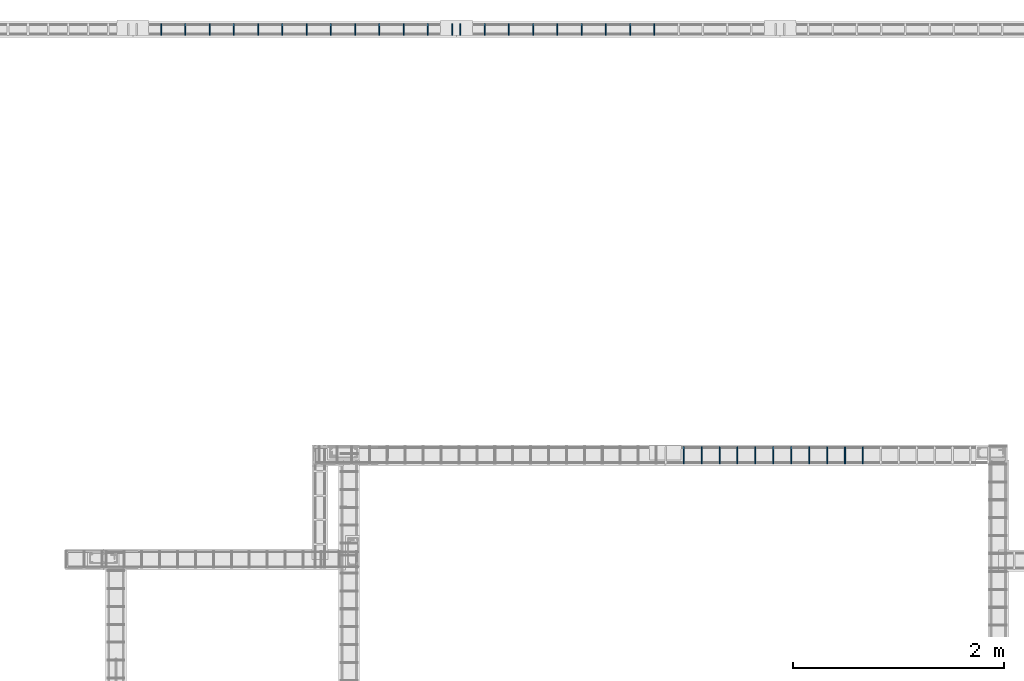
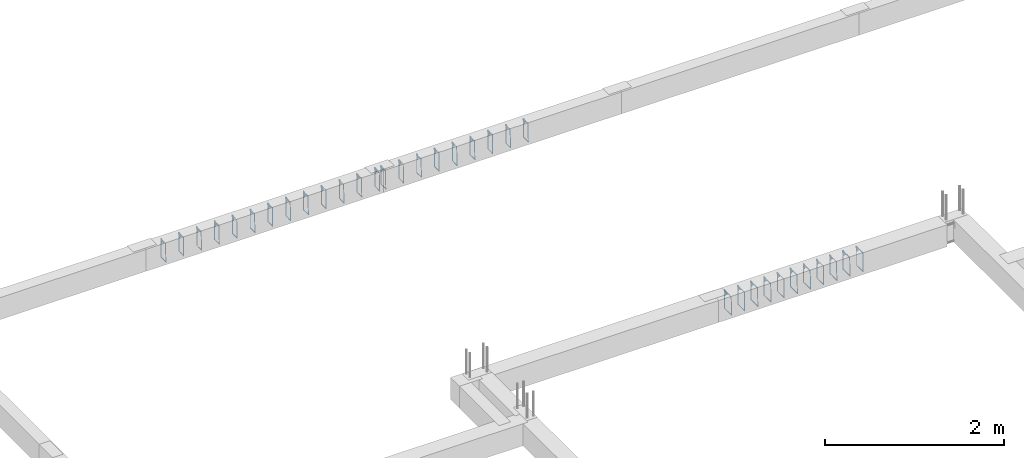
# One storey, part 125 of 150: 33 reinforcing bars.
"""IFC4 building model written with IfcOpenShell, lengths in centimetres."""

import ifcopenshell
import ifcopenshell.guid

model = None  # the IFC model being written
_history = None  # IfcOwnerHistory: only IFC2X3 demands one
_inside = {}  # id of a spatial element -> (the spatial element, [elements in it])
_under = {}  # id of a project, library or spatial element -> (it, [spatial elements below it])
_declared = {}  # id of a project -> (the project, [libraries it declares])
_typed = {}  # id of a type object -> (the type object, [elements of that type])
_made_of = {}  # id of a material, layer set ... -> (it, [elements and type objects made of it])


def new_model(schema):
    """Start an empty IFC model of exactly this schema.

    Asked for "IFC4X3", IfcOpenShell would pick the latest addendum, in which some entities
    have other attributes; the version numbers below select the first issue.
    IFC2X3 requires an IfcOwnerHistory on every rooted entity: one is made here for all.
    """
    global model, _history
    if schema == "IFC4X3":
        model = ifcopenshell.file(schema_version=(4, 3, 0, 0))
    else:
        model = ifcopenshell.file(schema=schema)
    _inside.clear()
    _under.clear()
    _declared.clear()
    _typed.clear()
    _made_of.clear()
    _history = None
    if model.schema == "IFC2X3":
        org = make("IfcOrganization", Name="unknown")
        user = make(
            "IfcPersonAndOrganization",
            ThePerson=make("IfcPerson", FamilyName="unknown"),
            TheOrganization=org,
        )
        app = make(
            "IfcApplication",
            ApplicationDeveloper=org,
            Version="unknown",
            ApplicationFullName="unknown",
            ApplicationIdentifier="unknown",
        )
        _history = make(
            "IfcOwnerHistory",
            OwningUser=user,
            OwningApplication=app,
            ChangeAction="ADDED",
            CreationDate=0,
        )
    return model


def make(cls, **values):
    """One entity of the class cls with the attributes given. An attribute that is None is left unset."""
    return model.create_entity(
        cls, **{name: value for name, value in values.items() if value is not None}
    )


def entity(cls, *values):
    """Any entity or typed value of the class cls, its attributes in the order of the schema. None: left unset."""
    e = model.create_entity(cls)
    for i, value in enumerate(values):
        if value is not None:
            e[i] = value
    return e


def rooted(cls, **values):
    """An entity with a GlobalId (a new one), such as an element, a storey or a relation."""
    return make(cls, GlobalId=ifcopenshell.guid.new(), OwnerHistory=_history, **values)


def si_unit(unit_type, name, prefix=None):
    """IfcSIUnit, for example si_unit("LENGTHUNIT", "METRE", prefix="MILLI")."""
    return make("IfcSIUnit", UnitType=unit_type, Prefix=prefix, Name=name)


def derived_unit(unit_type, elements):
    """IfcDerivedUnit: a product of units, each with its exponent."""
    return make(
        "IfcDerivedUnit",
        Elements=[
            make("IfcDerivedUnitElement", Unit=unit, Exponent=power)
            for unit, power in elements
        ],
        UnitType=unit_type,
    )


def assignment(units):
    """IfcUnitAssignment: the units of a project."""
    return None if units is None else make("IfcUnitAssignment", Units=units)


def point(xyz):
    """IfcCartesianPoint."""
    return None if xyz is None else make("IfcCartesianPoint", Coordinates=xyz)


def direction(xyz):
    """IfcDirection."""
    return None if xyz is None else make("IfcDirection", DirectionRatios=xyz)


def frame(location, z_axis=None, x_axis=None):
    """IfcAxis2Placement3D, a coordinate frame: its origin and axes. An axis left out is left unset."""
    return make(
        "IfcAxis2Placement3D",
        Location=point(location),
        Axis=direction(z_axis),
        RefDirection=direction(x_axis),
    )


def origin_with_axes():
    """The frame at (0, 0, 0) with the z axis (0, 0, 1) and the x axis (1, 0, 0) written out."""
    return frame((0.0, 0.0, 0.0), z_axis=(0.0, 0.0, 1.0), x_axis=(1.0, 0.0, 0.0))


def place(relative_to, where):
    """IfcLocalPlacement: puts the frame where relative to a parent placement (None: the world)."""
    return make(
        "IfcLocalPlacement", PlacementRelTo=relative_to, RelativePlacement=where
    )


def context(
    kind, dimensions, precision=None, world=None, true_north=None, identifier=None
):
    """IfcGeometricRepresentationContext, for example the 3D "Model" context."""
    return make(
        "IfcGeometricRepresentationContext",
        ContextIdentifier=identifier,
        ContextType=kind,
        CoordinateSpaceDimension=dimensions,
        Precision=precision,
        WorldCoordinateSystem=world,
        TrueNorth=true_north,
    )


def project(units=None, contexts=None):
    """IfcProject with its units and contexts."""
    return rooted(
        "IfcProject",
        Name="project",
        RepresentationContexts=contexts,
        UnitsInContext=assignment(units),
    )


def spatial(cls, under=None, at=None, **own):
    """A site, building, storey or space (cls), placed at a placement, below another one or the project."""
    s = rooted(cls, ObjectPlacement=at, **own)
    if under is not None:
        _under.setdefault(under.id(), (under, []))[1].append(s)
    return s


def shape(context_of_items, identifier, shape_type, items):
    """IfcShapeRepresentation: the items that make up one representation, for example the "Body"."""
    return make(
        "IfcShapeRepresentation",
        ContextOfItems=context_of_items,
        RepresentationIdentifier=identifier,
        RepresentationType=shape_type,
        Items=items,
    )


def source(mapping_origin, context_of_items, identifier, shape_type, items):
    """IfcRepresentationMap: a shape defined once, which mapped items show again and again."""
    return make(
        "IfcRepresentationMap",
        MappingOrigin=mapping_origin,
        MappedRepresentation=shape(context_of_items, identifier, shape_type, items),
    )


def transform(
    local_origin,
    x_axis=None,
    y_axis=None,
    z_axis=None,
    scale=None,
    scale2=None,
    scale3=None,
    uniform=True,
):
    """IfcCartesianTransformationOperator3D, or its non-uniform kind. x_axis, y_axis, z_axis: its Axis1, 2, 3."""
    if uniform:
        return make(
            "IfcCartesianTransformationOperator3D",
            Axis1=direction(x_axis),
            Axis2=direction(y_axis),
            LocalOrigin=point(local_origin),
            Scale=scale,
            Axis3=direction(z_axis),
        )
    return make(
        "IfcCartesianTransformationOperator3DnonUniform",
        Axis1=direction(x_axis),
        Axis2=direction(y_axis),
        LocalOrigin=point(local_origin),
        Scale=scale,
        Axis3=direction(z_axis),
        Scale2=scale2,
        Scale3=scale3,
    )


def mapped(mapping_source, mapping_target):
    """IfcMappedItem: shows the shape of a source again, moved by a transform."""
    return make(
        "IfcMappedItem", MappingSource=mapping_source, MappingTarget=mapping_target
    )


def made_of(thing, what):
    """Note that an element or type object is made of a material, layer set ...; save() writes the relation."""
    if what is not None:
        _made_of.setdefault(what.id(), (what, []))[1].append(thing)
    return thing


def element(
    cls,
    number,
    at=None,
    inside=None,
    cuts=None,
    type_object=None,
    material=None,
    context=None,
    identifier="Body",
    shape_type=None,
    held_by="IfcProductDefinitionShape",
    body=None,
    shapes=None,
    **own,
):
    """One element of the class cls, such as IfcWall. Its Tag is "e" and its number.

    at: its placement. inside: the storey or other place that contains it. cuts: it is an
    opening in that element (IfcRelVoidsElement). A single representation is given by context,
    identifier, shape_type and body (its items); several are given by shapes. held_by: the class
    of the entity that holds the representations. save() writes the other relations.
    """
    e = rooted(cls, Tag="e%d" % number, ObjectPlacement=at, **own)
    if body is not None:
        shapes = [shape(context, identifier, shape_type, body)]
    if shapes is not None:
        e.Representation = make(held_by, Representations=shapes)
    if inside is not None:
        _inside.setdefault(inside.id(), (inside, []))[1].append(e)
    if cuts is not None:
        rooted(
            "IfcRelVoidsElement", RelatingBuildingElement=cuts, RelatedOpeningElement=e
        )
    if type_object is not None:
        _typed.setdefault(type_object.id(), (type_object, []))[1].append(e)
    return made_of(e, material)


def aggregate(whole, parts):
    """IfcRelAggregates: a whole, such as a stair, and the parts it consists of."""
    return rooted("IfcRelAggregates", RelatingObject=whole, RelatedObjects=parts)


def save(model, path):
    """Write the relations noted so far, then the file.

    IfcRelAggregates (storeys below a building ...), IfcRelContainedInSpatialStructure (elements
    in a storey), IfcRelDefinesByType, IfcRelAssociatesMaterial and IfcRelDeclares: one each for
    every whole, place, type object, material and project.
    """
    for whole, parts in _under.values():
        aggregate(whole, parts)
    for where, things in _inside.values():
        rooted(
            "IfcRelContainedInSpatialStructure",
            RelatedElements=things,
            RelatingStructure=where,
        )
    for kind, things in _typed.values():
        rooted("IfcRelDefinesByType", RelatedObjects=things, RelatingType=kind)
    for what, things in _made_of.values():
        rooted("IfcRelAssociatesMaterial", RelatedObjects=things, RelatingMaterial=what)
    for by, libraries in _declared.values():
        rooted("IfcRelDeclares", RelatingContext=by, RelatedDefinitions=libraries)
    model.write(path)


model = new_model("IFC4")

# Units and contexts
model_context = context("Model", 3, precision=1e-05, world=origin_with_axes(), identifier="Body")
ifc_project = project(units=[si_unit("LENGTHUNIT", "METRE", prefix="CENTI"), si_unit("VOLUMEUNIT", "CUBIC_METRE"), si_unit("AREAUNIT", "SQUARE_METRE"), si_unit("POWERUNIT", "WATT"), si_unit("LUMINOUSFLUXUNIT", "LUMEN"), si_unit("ELECTRICCURRENTUNIT", "AMPERE"), si_unit("PRESSUREUNIT", "PASCAL", prefix="KILO"), si_unit("MASSUNIT", "GRAM", prefix="KILO"), si_unit("PLANEANGLEUNIT", "RADIAN"), derived_unit("VOLUMETRICFLOWRATEUNIT", [(si_unit("LENGTHUNIT", "METRE"), 3), (si_unit("TIMEUNIT", "SECOND"), -1)])], contexts=[model_context])

# Site, building, storey
site_placement = place(None, frame((-4000.0, 0.0, 0.0), z_axis=(0.0, 0.0, 1.0), x_axis=(1.0, 0.0, 0.0)))
site = spatial("IfcSite", under=ifc_project, at=site_placement, Name="PADRÃO")
building_placement = place(site_placement, frame((0.0, 0.0, -14.0)))
building = spatial("IfcBuilding", under=site, at=building_placement, Name="CRECHE PRÉ-ESCOLA TIPO 2")
placement = place(building_placement, origin_with_axes())
storey_placement = place(placement, frame((0.0, 0.0, 30.0), z_axis=(0.0, 0.0, 1.0), x_axis=(1.0, 0.0, 0.0)))
storey = spatial("IfcBuildingStorey", under=building, at=storey_placement, Name="VIGA BALDRAME", CompositionType="ELEMENT", Elevation=16.0)

# Reinforcing bars
shared_shape_1 = source(origin_with_axes(), model_context, "Body", "AdvancedSweptSolid", [
    entity("IfcSweptDiskSolid", entity("IfcCompositeCurve", [entity("IfcCompositeCurveSegment", "CONTINUOUS", True, entity("IfcPolyline", [entity("IfcCartesianPoint", [2.0, -6.0, 0.0]), entity("IfcCartesianPoint", [2.0, 0.0, 0.0])])), entity("IfcCompositeCurveSegment", "CONTINUOUS", True, entity("IfcPolyline", [entity("IfcCartesianPoint", [2.0, 0.0, 0.0]), entity("IfcCartesianPoint", [0.0, 0.0, 0.0])])), entity("IfcCompositeCurveSegment", "CONTINUOUS", True, entity("IfcPolyline", [entity("IfcCartesianPoint", [0.0, 0.0, 0.0]), entity("IfcCartesianPoint", [0.0, -25.5, 0.0])])), entity("IfcCompositeCurveSegment", "CONTINUOUS", True, entity("IfcPolyline", [entity("IfcCartesianPoint", [0.0, -25.5, 0.0]), entity("IfcCartesianPoint", [15.5, -25.5, 0.0])])), entity("IfcCompositeCurveSegment", "CONTINUOUS", True, entity("IfcPolyline", [entity("IfcCartesianPoint", [15.5, -25.5, 0.0]), entity("IfcCartesianPoint", [15.5, 0.0, 0.5])])), entity("IfcCompositeCurveSegment", "CONTINUOUS", True, entity("IfcPolyline", [entity("IfcCartesianPoint", [15.5, 0.0, 0.5]), entity("IfcCartesianPoint", [0.0, 0.0, 0.5])])), entity("IfcCompositeCurveSegment", "CONTINUOUS", True, entity("IfcPolyline", [entity("IfcCartesianPoint", [0.0, 0.0, 0.5]), entity("IfcCartesianPoint", [0.0, -2.0, 0.5])])), entity("IfcCompositeCurveSegment", "CONTINUOUS", True, entity("IfcPolyline", [entity("IfcCartesianPoint", [0.0, -2.0, 0.5]), entity("IfcCartesianPoint", [6.0, -2.0, 0.5])]))], False), 0.25),
])
for number, where, z_axis, x_axis, name in (
    (1, (919.78, 4090.24, -2.25), (-1.0, 0.0, 0.0), (0.0, -1.0, 0.0), "V102 - Estribo"),
    (2, (902.78, 4090.24, -2.25), (-1.0, 0.0, 0.0), (0.0, -1.0, 0.0), "V102 - Estribo"),
    (3, (834.78, 4090.24, -2.25), (-1.0, 0.0, 0.0), (0.0, -1.0, 0.0), "V102 - Estribo"),
    (4, (885.78, 4090.24, -2.25), (-1.0, 0.0, 0.0), (0.0, -1.0, 0.0), "V102 - Estribo"),
    (5, (868.78, 4090.24, -2.25), (-1.0, 0.0, 0.0), (0.0, -1.0, 0.0), "V102 - Estribo"),
    (6, (851.78, 4090.24, -2.25), (-1.0, 0.0, 0.0), (0.0, -1.0, 0.0), "V102 - Estribo"),
    (7, (953.78, 4090.24, -2.25), (-1.0, 0.0, 0.0), (0.0, -1.0, 0.0), "V102 - Estribo"),
    (8, (817.78, 4090.24, -2.25), (-1.0, 0.0, 0.0), (0.0, -1.0, 0.0), "V102 - Estribo"),
    (9, (970.78, 4090.24, -2.25), (-1.0, 0.0, 0.0), (0.0, -1.0, 0.0), "V102 - Estribo"),
    (10, (936.78, 4090.24, -2.25), (-1.0, 0.0, 0.0), (0.0, -1.0, 0.0), "V102 - Estribo"),
    (11, (987.78, 4090.24, -2.25), (-1.0, 0.0, 0.0), (0.0, -1.0, 0.0), "V102 - Estribo"),
):
    element("IfcReinforcingBar", number, at=place(storey_placement, frame(where, z_axis=z_axis, x_axis=x_axis)), inside=storey, Name=name, BarLength=0.0, CrossSectionArea=1.9634954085e-05, NominalDiameter=0.5, PredefinedType="MAIN", context=model_context, shape_type="MappedRepresentation", body=[
        mapped(shared_shape_1, transform((0.0, 0.0, 0.0), scale=1.0)),
    ])
shared_shape_2 = source(origin_with_axes(), model_context, "Body", "AdvancedSweptSolid", [
    entity("IfcSweptDiskSolid", entity("IfcCompositeCurve", [entity("IfcCompositeCurveSegment", "CONTINUOUS", True, entity("IfcPolyline", [entity("IfcCartesianPoint", [2.0, -6.0, 0.0]), entity("IfcCartesianPoint", [2.0, 0.0, 0.0])])), entity("IfcCompositeCurveSegment", "CONTINUOUS", True, entity("IfcPolyline", [entity("IfcCartesianPoint", [2.0, 0.0, 0.0]), entity("IfcCartesianPoint", [0.0, 0.0, 0.0])])), entity("IfcCompositeCurveSegment", "CONTINUOUS", True, entity("IfcPolyline", [entity("IfcCartesianPoint", [0.0, 0.0, 0.0]), entity("IfcCartesianPoint", [0.0, -25.5, 0.0])])), entity("IfcCompositeCurveSegment", "CONTINUOUS", True, entity("IfcPolyline", [entity("IfcCartesianPoint", [0.0, -25.5, 0.0]), entity("IfcCartesianPoint", [10.5, -25.5, 0.0])])), entity("IfcCompositeCurveSegment", "CONTINUOUS", True, entity("IfcPolyline", [entity("IfcCartesianPoint", [10.5, -25.5, 0.0]), entity("IfcCartesianPoint", [10.5, 0.0, 0.5])])), entity("IfcCompositeCurveSegment", "CONTINUOUS", True, entity("IfcPolyline", [entity("IfcCartesianPoint", [10.5, 0.0, 0.5]), entity("IfcCartesianPoint", [0.0, 0.0, 0.5])])), entity("IfcCompositeCurveSegment", "CONTINUOUS", True, entity("IfcPolyline", [entity("IfcCartesianPoint", [0.0, 0.0, 0.5]), entity("IfcCartesianPoint", [0.0, -2.0, 0.5])])), entity("IfcCompositeCurveSegment", "CONTINUOUS", True, entity("IfcPolyline", [entity("IfcCartesianPoint", [0.0, -2.0, 0.5]), entity("IfcCartesianPoint", [6.0, -2.0, 0.5])]))], False), 0.25),
])
for number, where, z_axis, x_axis, name in (
    (12, (322.0, 4491.75, -2.25), (-1.0, 0.0, 0.0), (0.0, -1.0, 0.0), "V101 - Estribo"),
    (13, (345.0, 4491.75, -2.25), (-1.0, 0.0, 0.0), (0.0, -1.0, 0.0), "V101 - Estribo"),
    (14, (368.0, 4491.75, -2.25), (-1.0, 0.0, 0.0), (0.0, -1.0, 0.0), "V101 - Estribo"),
    (15, (391.0, 4491.75, -2.25), (-1.0, 0.0, 0.0), (0.0, -1.0, 0.0), "V101 - Estribo"),
    (16, (414.0, 4491.75, -2.25), (-1.0, 0.0, 0.0), (0.0, -1.0, 0.0), "V101 - Estribo"),
    (17, (437.0, 4491.75, -2.25), (-1.0, 0.0, 0.0), (0.0, -1.0, 0.0), "V101 - Estribo"),
    (18, (460.0, 4491.75, -2.25), (-1.0, 0.0, 0.0), (0.0, -1.0, 0.0), "V101 - Estribo"),
    (19, (483.0, 4491.75, -2.25), (-1.0, 0.0, 0.0), (0.0, -1.0, 0.0), "V101 - Estribo"),
    (20, (506.0, 4491.75, -2.25), (-1.0, 0.0, 0.0), (0.0, -1.0, 0.0), "V101 - Estribo"),
    (21, (529.0, 4491.75, -2.25), (-1.0, 0.0, 0.0), (0.0, -1.0, 0.0), "V101 - Estribo"),
    (22, (552.0, 4491.75, -2.25), (-1.0, 0.0, 0.0), (0.0, -1.0, 0.0), "V101 - Estribo"),
    (23, (575.0, 4491.75, -2.25), (-1.0, 0.0, 0.0), (0.0, -1.0, 0.0), "V101 - Estribo"),
    (24, (598.0, 4491.75, -2.25), (-1.0, 0.0, 0.0), (0.0, -1.0, 0.0), "V101 - Estribo"),
):
    element("IfcReinforcingBar", number, at=place(storey_placement, frame(where, z_axis=z_axis, x_axis=x_axis)), inside=storey, Name=name, BarLength=0.0, CrossSectionArea=1.9634954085e-05, NominalDiameter=0.5, PredefinedType="MAIN", context=model_context, shape_type="MappedRepresentation", body=[
        mapped(shared_shape_2, transform((0.0, 0.0, 0.0), scale=1.0)),
    ])
shared_shape_3 = source(origin_with_axes(), model_context, "Body", "AdvancedSweptSolid", [
    entity("IfcSweptDiskSolid", entity("IfcCompositeCurve", [entity("IfcCompositeCurveSegment", "CONTINUOUS", True, entity("IfcPolyline", [entity("IfcCartesianPoint", [2.0, -6.0, 0.0]), entity("IfcCartesianPoint", [2.0, 0.0, 0.0])])), entity("IfcCompositeCurveSegment", "CONTINUOUS", True, entity("IfcPolyline", [entity("IfcCartesianPoint", [2.0, 0.0, 0.0]), entity("IfcCartesianPoint", [0.0, 0.0, 0.0])])), entity("IfcCompositeCurveSegment", "CONTINUOUS", True, entity("IfcPolyline", [entity("IfcCartesianPoint", [0.0, 0.0, 0.0]), entity("IfcCartesianPoint", [0.0, -25.5, 0.0])])), entity("IfcCompositeCurveSegment", "CONTINUOUS", True, entity("IfcPolyline", [entity("IfcCartesianPoint", [0.0, -25.5, 0.0]), entity("IfcCartesianPoint", [10.5, -25.5, 0.0])])), entity("IfcCompositeCurveSegment", "CONTINUOUS", True, entity("IfcPolyline", [entity("IfcCartesianPoint", [10.5, -25.5, 0.0]), entity("IfcCartesianPoint", [10.5, 0.0, 0.5])])), entity("IfcCompositeCurveSegment", "CONTINUOUS", True, entity("IfcPolyline", [entity("IfcCartesianPoint", [10.5, 0.0, 0.5]), entity("IfcCartesianPoint", [0.0, 0.0, 0.5])])), entity("IfcCompositeCurveSegment", "CONTINUOUS", True, entity("IfcPolyline", [entity("IfcCartesianPoint", [0.0, 0.0, 0.5]), entity("IfcCartesianPoint", [0.0, -2.0, 0.5])])), entity("IfcCompositeCurveSegment", "CONTINUOUS", True, entity("IfcPolyline", [entity("IfcCartesianPoint", [0.0, -2.0, 0.5]), entity("IfcCartesianPoint", [6.0, -2.0, 0.5])]))], False), 0.25),
])
for number, where, z_axis, x_axis, name in (
    (25, (606.0, 4491.75, -2.25), (-1.0, 0.0, 0.0), (0.0, -1.0, 0.0), "V101 - Estribo"),
    (26, (629.0, 4491.75, -2.25), (-1.0, 0.0, 0.0), (0.0, -1.0, 0.0), "V101 - Estribo"),
    (27, (652.0, 4491.75, -2.25), (-1.0, 0.0, 0.0), (0.0, -1.0, 0.0), "V101 - Estribo"),
    (28, (675.0, 4491.75, -2.25), (-1.0, 0.0, 0.0), (0.0, -1.0, 0.0), "V101 - Estribo"),
    (29, (698.0, 4491.75, -2.25), (-1.0, 0.0, 0.0), (0.0, -1.0, 0.0), "V101 - Estribo"),
    (30, (721.0, 4491.75, -2.25), (-1.0, 0.0, 0.0), (0.0, -1.0, 0.0), "V101 - Estribo"),
    (31, (744.0, 4491.75, -2.25), (-1.0, 0.0, 0.0), (0.0, -1.0, 0.0), "V101 - Estribo"),
    (32, (767.0, 4491.75, -2.25), (-1.0, 0.0, 0.0), (0.0, -1.0, 0.0), "V101 - Estribo"),
    (33, (790.0, 4491.75, -2.25), (-1.0, 0.0, 0.0), (0.0, -1.0, 0.0), "V101 - Estribo"),
):
    element("IfcReinforcingBar", number, at=place(storey_placement, frame(where, z_axis=z_axis, x_axis=x_axis)), inside=storey, Name=name, BarLength=0.0, CrossSectionArea=1.9634954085e-05, NominalDiameter=0.5, PredefinedType="MAIN", context=model_context, shape_type="MappedRepresentation", body=[
        mapped(shared_shape_3, transform((0.0, 0.0, 0.0), scale=1.0)),
    ])

save(model, "model.ifc")
